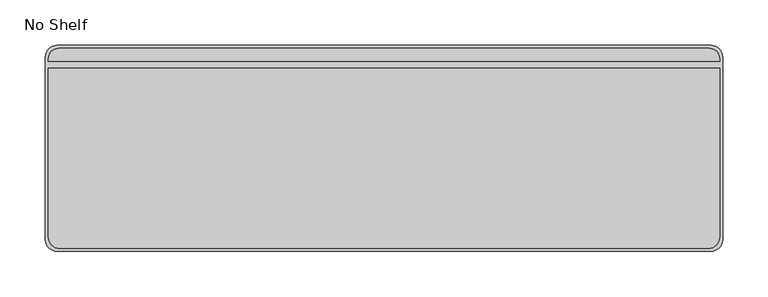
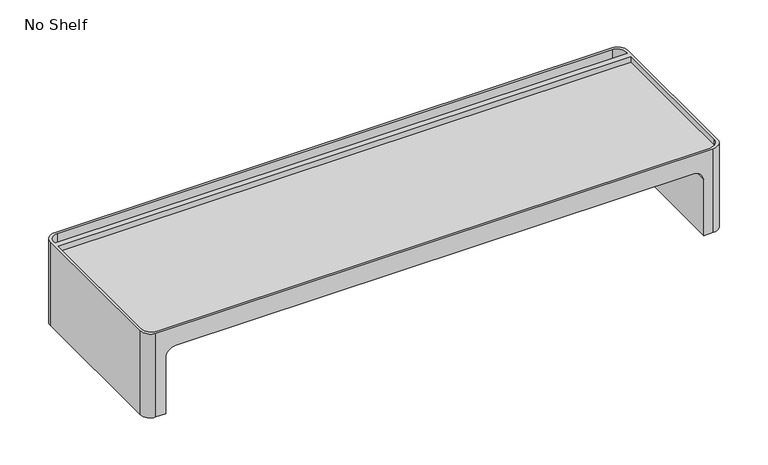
"""IFC4 building model written with IfcOpenShell, lengths in millimetres: furniture geometry, Steelcase - Worktool - SOTO II - Monitor Bridge : No Shelf."""

import ifcopenshell
import ifcopenshell.guid

model = None  # the IFC model being written
_history = None  # IfcOwnerHistory: only IFC2X3 demands one
_inside = {}  # id of a spatial element -> (the spatial element, [elements in it])
_under = {}  # id of a project, library or spatial element -> (it, [spatial elements below it])
_declared = {}  # id of a project -> (the project, [libraries it declares])
_typed = {}  # id of a type object -> (the type object, [elements of that type])
_made_of = {}  # id of a material, layer set ... -> (it, [elements and type objects made of it])


def new_model(schema):
    """Start an empty IFC model of exactly this schema.

    Asked for "IFC4X3", IfcOpenShell would pick the latest addendum, in which some entities
    have other attributes; the version numbers below select the first issue.
    IFC2X3 requires an IfcOwnerHistory on every rooted entity: one is made here for all.
    """
    global model, _history
    if schema == "IFC4X3":
        model = ifcopenshell.file(schema_version=(4, 3, 0, 0))
    else:
        model = ifcopenshell.file(schema=schema)
    _inside.clear()
    _under.clear()
    _declared.clear()
    _typed.clear()
    _made_of.clear()
    _history = None
    if model.schema == "IFC2X3":
        org = make("IfcOrganization", Name="unknown")
        user = make(
            "IfcPersonAndOrganization",
            ThePerson=make("IfcPerson", FamilyName="unknown"),
            TheOrganization=org,
        )
        app = make(
            "IfcApplication",
            ApplicationDeveloper=org,
            Version="unknown",
            ApplicationFullName="unknown",
            ApplicationIdentifier="unknown",
        )
        _history = make(
            "IfcOwnerHistory",
            OwningUser=user,
            OwningApplication=app,
            ChangeAction="ADDED",
            CreationDate=0,
        )
    return model


def make(cls, **values):
    """One entity of the class cls with the attributes given. An attribute that is None is left unset."""
    return model.create_entity(
        cls, **{name: value for name, value in values.items() if value is not None}
    )


def rooted(cls, **values):
    """An entity with a GlobalId (a new one), such as an element, a storey or a relation."""
    return make(cls, GlobalId=ifcopenshell.guid.new(), OwnerHistory=_history, **values)


def si_unit(unit_type, name, prefix=None):
    """IfcSIUnit, for example si_unit("LENGTHUNIT", "METRE", prefix="MILLI")."""
    return make("IfcSIUnit", UnitType=unit_type, Prefix=prefix, Name=name)


def assignment(units):
    """IfcUnitAssignment: the units of a project."""
    return None if units is None else make("IfcUnitAssignment", Units=units)


def point(xyz):
    """IfcCartesianPoint."""
    return None if xyz is None else make("IfcCartesianPoint", Coordinates=xyz)


def direction(xyz):
    """IfcDirection."""
    return None if xyz is None else make("IfcDirection", DirectionRatios=xyz)


def frame(location, z_axis=None, x_axis=None):
    """IfcAxis2Placement3D, a coordinate frame: its origin and axes. An axis left out is left unset."""
    return make(
        "IfcAxis2Placement3D",
        Location=point(location),
        Axis=direction(z_axis),
        RefDirection=direction(x_axis),
    )


def origin():
    """The frame at (0, 0, 0) with its axes left unset."""
    return frame((0.0, 0.0, 0.0))


def place(relative_to, where):
    """IfcLocalPlacement: puts the frame where relative to a parent placement (None: the world)."""
    return make(
        "IfcLocalPlacement", PlacementRelTo=relative_to, RelativePlacement=where
    )


def context(
    kind, dimensions, precision=None, world=None, true_north=None, identifier=None
):
    """IfcGeometricRepresentationContext, for example the 3D "Model" context."""
    return make(
        "IfcGeometricRepresentationContext",
        ContextIdentifier=identifier,
        ContextType=kind,
        CoordinateSpaceDimension=dimensions,
        Precision=precision,
        WorldCoordinateSystem=world,
        TrueNorth=true_north,
    )


def project(units=None, contexts=None):
    """IfcProject with its units and contexts."""
    return rooted(
        "IfcProject",
        Name="project",
        RepresentationContexts=contexts,
        UnitsInContext=assignment(units),
    )


def spatial(cls, under=None, at=None, **own):
    """A site, building, storey or space (cls), placed at a placement, below another one or the project."""
    s = rooted(cls, ObjectPlacement=at, **own)
    if under is not None:
        _under.setdefault(under.id(), (under, []))[1].append(s)
    return s


def polyline(points):
    """IfcPolyline through the points."""
    return make("IfcPolyline", Points=[point(p) for p in points])


def circle_curve(where, radius):
    """IfcCircle in the frame where."""
    return make("IfcCircle", Position=where, Radius=radius)


def shape(context_of_items, identifier, shape_type, items):
    """IfcShapeRepresentation: the items that make up one representation, for example the "Body"."""
    return make(
        "IfcShapeRepresentation",
        ContextOfItems=context_of_items,
        RepresentationIdentifier=identifier,
        RepresentationType=shape_type,
        Items=items,
    )


def source(mapping_origin, context_of_items, identifier, shape_type, items):
    """IfcRepresentationMap: a shape defined once, which mapped items show again and again."""
    return make(
        "IfcRepresentationMap",
        MappingOrigin=mapping_origin,
        MappedRepresentation=shape(context_of_items, identifier, shape_type, items),
    )


def transform(
    local_origin,
    x_axis=None,
    y_axis=None,
    z_axis=None,
    scale=None,
    scale2=None,
    scale3=None,
    uniform=True,
):
    """IfcCartesianTransformationOperator3D, or its non-uniform kind. x_axis, y_axis, z_axis: its Axis1, 2, 3."""
    if uniform:
        return make(
            "IfcCartesianTransformationOperator3D",
            Axis1=direction(x_axis),
            Axis2=direction(y_axis),
            LocalOrigin=point(local_origin),
            Scale=scale,
            Axis3=direction(z_axis),
        )
    return make(
        "IfcCartesianTransformationOperator3DnonUniform",
        Axis1=direction(x_axis),
        Axis2=direction(y_axis),
        LocalOrigin=point(local_origin),
        Scale=scale,
        Axis3=direction(z_axis),
        Scale2=scale2,
        Scale3=scale3,
    )


def mapped(mapping_source, mapping_target):
    """IfcMappedItem: shows the shape of a source again, moved by a transform."""
    return make(
        "IfcMappedItem", MappingSource=mapping_source, MappingTarget=mapping_target
    )


def made_of(thing, what):
    """Note that an element or type object is made of a material, layer set ...; save() writes the relation."""
    if what is not None:
        _made_of.setdefault(what.id(), (what, []))[1].append(thing)
    return thing


def element(
    cls,
    number,
    at=None,
    inside=None,
    cuts=None,
    type_object=None,
    material=None,
    context=None,
    identifier="Body",
    shape_type=None,
    held_by="IfcProductDefinitionShape",
    body=None,
    shapes=None,
    **own,
):
    """One element of the class cls, such as IfcWall. Its Tag is "e" and its number.

    at: its placement. inside: the storey or other place that contains it. cuts: it is an
    opening in that element (IfcRelVoidsElement). A single representation is given by context,
    identifier, shape_type and body (its items); several are given by shapes. held_by: the class
    of the entity that holds the representations. save() writes the other relations.
    """
    e = rooted(cls, Tag="e%d" % number, ObjectPlacement=at, **own)
    if body is not None:
        shapes = [shape(context, identifier, shape_type, body)]
    if shapes is not None:
        e.Representation = make(held_by, Representations=shapes)
    if inside is not None:
        _inside.setdefault(inside.id(), (inside, []))[1].append(e)
    if cuts is not None:
        rooted(
            "IfcRelVoidsElement", RelatingBuildingElement=cuts, RelatedOpeningElement=e
        )
    if type_object is not None:
        _typed.setdefault(type_object.id(), (type_object, []))[1].append(e)
    return made_of(e, material)


def aggregate(whole, parts):
    """IfcRelAggregates: a whole, such as a stair, and the parts it consists of."""
    return rooted("IfcRelAggregates", RelatingObject=whole, RelatedObjects=parts)


def save(model, path):
    """Write the relations noted so far, then the file.

    IfcRelAggregates (storeys below a building ...), IfcRelContainedInSpatialStructure (elements
    in a storey), IfcRelDefinesByType, IfcRelAssociatesMaterial and IfcRelDeclares: one each for
    every whole, place, type object, material and project.
    """
    for whole, parts in _under.values():
        aggregate(whole, parts)
    for where, things in _inside.values():
        rooted(
            "IfcRelContainedInSpatialStructure",
            RelatedElements=things,
            RelatingStructure=where,
        )
    for kind, things in _typed.values():
        rooted("IfcRelDefinesByType", RelatedObjects=things, RelatingType=kind)
    for what, things in _made_of.values():
        rooted("IfcRelAssociatesMaterial", RelatedObjects=things, RelatingMaterial=what)
    for by, libraries in _declared.values():
        rooted("IfcRelDeclares", RelatingContext=by, RelatedDefinitions=libraries)
    model.write(path)


def plane_surface(at):
    """IfcPlane: the flat surface through the origin of the frame at, square to its z axis."""
    return make("IfcPlane", Position=at)


def cylinder_surface(at, radius):
    """IfcCylindricalSurface: all points at the distance radius from the z axis of the frame at."""
    return make("IfcCylindricalSurface", Position=at, Radius=radius)


def revolved_surface(curve, axis_point, axis_direction):
    """IfcSurfaceOfRevolution: the curve turned about the line through axis_point along axis_direction."""
    return make(
        "IfcSurfaceOfRevolution",
        SweptCurve=make("IfcArbitraryOpenProfileDef", ProfileType="CURVE", Curve=curve),
        AxisPosition=make("IfcAxis1Placement", Location=point(axis_point), Axis=direction(axis_direction)),
    )


def advanced_brep(points, edges, surfaces, faces):
    """IfcAdvancedBrep: a solid bounded by faces that lie on surfaces and meet in shared edges.

    An edge is (start, end): straight between two places in points (the first is 0);
    or (start, end, curve); or (start, end, curve, False) where it runs against its curve.
    A face is (place in surfaces, loops), or (place, loops, False) where it looks against
    its surface's normal. A loop lists edges by number (the first is 1), with a minus sign
    where the edge is run from its end to its start. The first loop is the outer one.
    """
    corners = [point(p) for p in points]
    vertices = [make("IfcVertexPoint", VertexGeometry=c) for c in corners]
    made = []
    for start, end, *more in edges:
        made.append(
            make(
                "IfcEdgeCurve",
                EdgeStart=vertices[start],
                EdgeEnd=vertices[end],
                EdgeGeometry=more[0] if more else make("IfcPolyline", Points=[corners[start], corners[end]]),
                SameSense=more[1] if len(more) > 1 else True,
            )
        )
    hull = []
    for where, loops, *sense in faces:
        bounds = []
        for j, loop in enumerate(loops):
            ring = [make("IfcOrientedEdge", EdgeElement=made[abs(k) - 1], Orientation=k > 0) for k in loop]
            bounds.append(
                make(
                    "IfcFaceOuterBound" if j == 0 else "IfcFaceBound",
                    Bound=make("IfcEdgeLoop", EdgeList=ring),
                    Orientation=True,
                )
            )
        hull.append(make("IfcAdvancedFace", Bounds=bounds, FaceSurface=surfaces[where], SameSense=sense[0] if sense else True))
    return make("IfcAdvancedBrep", Outer=make("IfcClosedShell", CfsFaces=hull))


def no_shelf_664b266c(model_context):
    return source(origin(), model_context, "Body", "AdvancedBrep", [
        advanced_brep(
        [(-1.9313861, -14.6303873, 838.2031248), (-1.9313861, -215.9, 838.2031248), (10.7686139, -228.6, 838.2031248), (730.8586235, -228.6, 838.2031248), (743.5586235, -215.9, 838.2031248), (743.5586235, -14.6303873, 838.2031248), (730.8586235, -1.9303873, 838.2031248), (10.7686139, -1.9303873, 838.2031248), (13.9436139, -225.4249758, 838.2031248), (1.2436139, -212.7249758, 838.2031248), (1.2436139, -27.2122743, 838.2031248), (740.383672, -27.2122743, 838.2031248), (740.383672, -212.7249758, 838.2031248), (727.683672, -225.4249758, 838.2031248), (1.2436139, -19.6180613, 838.2031248), (1.2436139, -16.5353751, 838.2031248), (12.6736139, -5.1053751, 838.2031248), (728.953672, -5.1053751, 838.2031248), (740.383672, -16.5353751, 838.2031248), (740.383672, -19.6180613, 838.2031248), (-1.9313861, -14.6303873, 723.9), (10.7686139, -1.9303873, 723.9), (23.4466191, -1.9303873, 723.9), (23.4466191, -228.6, 723.9), (10.7686139, -228.6, 723.9), (-1.9313861, -215.9, 723.9), (730.8586235, -228.6, 723.9), (718.1872071, -228.6, 723.9), (718.1872071, -1.9303873, 723.9), (730.8586235, -1.9303873, 723.9), (743.5586235, -14.6303873, 723.9), (743.5586235, -215.9, 723.9), (718.1872071, -1.9303873, 800.0309877), (705.4872071, -1.9303873, 812.7309877), (36.1466191, -1.9303873, 812.7309877), (23.4466191, -1.9303873, 800.0309877), (23.4466191, -228.6, 800.0309877), (36.1466191, -228.6, 812.7309877), (705.4872071, -228.6, 812.7309877), (718.1872071, -228.6, 800.0309877), (727.683672, -225.4249758, 830.3983686), (740.383672, -212.7249758, 830.3983686), (740.383672, -27.2122743, 830.3983686), (1.2436139, -27.2122743, 830.3983686), (1.2436139, -212.7249758, 830.3983686), (13.9436139, -225.4249758, 830.3983686), (740.383672, -19.6180613, 817.0762894), (740.383672, -16.5353751, 817.0762894), (728.953672, -5.1053751, 817.0762894), (12.6736139, -5.1053751, 817.0762894), (1.2436139, -16.5353751, 817.0762894), (1.2436139, -19.6180613, 817.0762894)],
        [
            (0, 1),
            (1, 2, circle_curve(frame((10.7686139, -215.9, 838.2031248), z_axis=(0.0, 0.0, 1.0), x_axis=(1.0, 0.0, 0.0)), 12.7)),
            (2, 3),
            (3, 4, circle_curve(frame((730.8586235, -215.9, 838.2031248), z_axis=(0.0, 0.0, 1.0), x_axis=(1.0, 0.0, 0.0)), 12.7)),
            (4, 5),
            (5, 6, circle_curve(frame((730.8586235, -14.6303873, 838.2031248), z_axis=(0.0, 0.0, 1.0), x_axis=(1.0, 0.0, 0.0)), 12.7)),
            (6, 7),
            (7, 0, circle_curve(frame((10.7686139, -14.6303873, 838.2031248), z_axis=(0.0, 0.0, 1.0), x_axis=(1.0, 0.0, 0.0)), 12.7)),
            (8, 9, circle_curve(frame((13.9436139, -212.7249758, 838.2031248), z_axis=(0.0, 0.0, -1.0), x_axis=(1.0, 0.0, 0.0)), 12.7)),
            (9, 10),
            (10, 11),
            (11, 12),
            (12, 13, circle_curve(frame((727.683672, -212.7249758, 838.2031248), z_axis=(0.0, 0.0, -1.0), x_axis=(1.0, 0.0, 0.0)), 12.7)),
            (13, 8),
            (14, 15),
            (15, 16, circle_curve(frame((12.6736139, -16.5353751, 838.2031248), z_axis=(0.0, 0.0, -1.0), x_axis=(1.0, 0.0, 0.0)), 11.43)),
            (16, 17),
            (17, 18, circle_curve(frame((728.953672, -16.5353751, 838.2031248), z_axis=(0.0, 0.0, -1.0), x_axis=(1.0, 0.0, 0.0)), 11.43)),
            (18, 19),
            (19, 14),
            (20, 21, circle_curve(frame((10.7686139, -14.6303873, 723.9), z_axis=(0.0, 0.0, -1.0), x_axis=(1.0, 0.0, 0.0)), 12.7)),
            (21, 22),
            (22, 23),
            (23, 24),
            (24, 25, circle_curve(frame((10.7686139, -215.9, 723.9), z_axis=(0.0, 0.0, -1.0), x_axis=(1.0, 0.0, 0.0)), 12.7)),
            (25, 20),
            (26, 27),
            (27, 28),
            (28, 29),
            (29, 30, circle_curve(frame((730.8586235, -14.6303873, 723.9), z_axis=(0.0, 0.0, -1.0), x_axis=(1.0, 0.0, 0.0)), 12.7)),
            (30, 31),
            (31, 26, circle_curve(frame((730.8586235, -215.9, 723.9), z_axis=(0.0, 0.0, -1.0), x_axis=(1.0, 0.0, 0.0)), 12.7)),
            (7, 21),
            (20, 0),
            (6, 29),
            (28, 32),
            (32, 33, circle_curve(frame((705.4872071, -1.9303873, 800.0309877), z_axis=(0.0, -1.0, 0.0), x_axis=(1.0, 0.0, 0.0)), 12.7)),
            (33, 34),
            (34, 35, circle_curve(frame((36.1466191, -1.9303873, 800.0309877), z_axis=(0.0, -1.0, 0.0), x_axis=(1.0, 0.0, 0.0)), 12.7)),
            (35, 22),
            (5, 30),
            (4, 31),
            (3, 26),
            (2, 24),
            (23, 36),
            (36, 37, circle_curve(frame((36.1466191, -228.6, 800.0309877), z_axis=(0.0, 1.0, 0.0), x_axis=(1.0, 0.0, 0.0)), 12.7)),
            (37, 38),
            (38, 39, circle_curve(frame((705.4872071, -228.6, 800.0309877), z_axis=(0.0, 1.0, 0.0), x_axis=(1.0, 0.0, 0.0)), 12.7)),
            (39, 27),
            (1, 25),
            (35, 36),
            (39, 32),
            (38, 33),
            (37, 34),
            (40, 41, circle_curve(frame((727.683672, -212.7249758, 830.3983686), z_axis=(0.0, 0.0, 1.0), x_axis=(1.0, 0.0, 0.0)), 12.7)),
            (41, 42),
            (42, 43),
            (43, 44),
            (44, 45, circle_curve(frame((13.9436139, -212.7249758, 830.3983686), z_axis=(0.0, 0.0, 1.0), x_axis=(1.0, 0.0, 0.0)), 12.7)),
            (45, 40),
            (45, 8),
            (13, 40),
            (44, 9),
            (43, 10),
            (42, 11),
            (41, 12),
            (46, 47),
            (47, 48, circle_curve(frame((728.953672, -16.5353751, 817.0762894), z_axis=(0.0, 0.0, 1.0), x_axis=(1.0, 0.0, 0.0)), 11.43)),
            (48, 49),
            (49, 50, circle_curve(frame((12.6736139, -16.5353751, 817.0762894), z_axis=(0.0, 0.0, 1.0), x_axis=(1.0, 0.0, 0.0)), 11.43)),
            (50, 51),
            (51, 46),
            (51, 14),
            (19, 46),
            (50, 15),
            (49, 16),
            (48, 17),
            (47, 18),
        ],
        [
            plane_surface(frame((23.4686139, -14.6303873, 838.2031248), z_axis=(0.0, 0.0, 1.0), x_axis=(0.0, -1.0, 0.0))),
            plane_surface(frame((23.4686139, -14.6303873, 723.9), z_axis=(0.0, 0.0, -1.0), x_axis=(0.0, 1.0, 0.0))),
            cylinder_surface(frame((10.7686139, -14.6303873, 723.9), z_axis=(0.0, 0.0, 1.0), x_axis=(1.0, 0.0, 0.0)), 12.7),
            plane_surface(frame((10.7686139, -1.9303873, 838.2031248), z_axis=(0.0, 1.0, 0.0), x_axis=(0.0, 0.0, -1.0))),
            cylinder_surface(frame((730.8586235, -14.6303873, 723.9), z_axis=(0.0, 0.0, 1.0), x_axis=(1.0, 0.0, 0.0)), 12.7),
            plane_surface(frame((743.5586235, -14.6303873, 838.2031248), z_axis=(1.0, 0.0, 0.0), x_axis=(0.0, 0.0, -1.0))),
            cylinder_surface(frame((730.8586235, -215.9, 723.9), z_axis=(0.0, 0.0, 1.0), x_axis=(1.0, 0.0, 0.0)), 12.7),
            plane_surface(frame((730.8586235, -228.6, 838.2031248), z_axis=(0.0, -1.0, 0.0), x_axis=(0.0, 0.0, -1.0))),
            cylinder_surface(frame((10.7686139, -215.9, 723.9), z_axis=(0.0, 0.0, 1.0), x_axis=(1.0, 0.0, 0.0)), 12.7),
            plane_surface(frame((-1.9313861, -215.9, 838.2031248), z_axis=(-1.0, 0.0, 0.0), x_axis=(0.0, 0.0, -1.0))),
            plane_surface(frame((23.4466191, 190.5, 800.0309877), z_axis=(1.0, 0.0, 0.0), x_axis=(0.0, -1.0, 0.0))),
            plane_surface(frame((718.1872071, 190.5, 723.9), z_axis=(-1.0, 0.0, 0.0), x_axis=(0.0, -1.0, 0.0))),
            revolved_surface(polyline([(718.1872071, -1.9303873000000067, 800.0309877), (718.1872071, -228.6, 800.0309877)]), (705.4872071, -447.3250306, 800.0309877), (0.0, 1.0, 0.0)),
            plane_surface(frame((705.4872071, 190.5, 812.7309877), z_axis=(0.0, 0.0, -1.0), x_axis=(0.0, -1.0, 0.0))),
            revolved_surface(polyline([(48.8466191, -1.9303873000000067, 800.0309877), (48.8466191, -228.6, 800.0309877)]), (36.1466191, -447.3250306, 800.0309877), (0.0, 1.0, 0.0)),
            plane_surface(frame((12.7604916, -225.4249758, 830.3983686), z_axis=(0.0, 0.0, 1.0), x_axis=(1.0, 0.0, 0.0))),
            plane_surface(frame((727.683672, -225.4249758, 874.4453433), z_axis=(0.0, 1.0, 0.0), x_axis=(0.0, 0.0, -1.0))),
            revolved_surface(polyline([(26.6436139, -212.7249758, 838.2031248), (26.6436139, -212.7249758, 830.3983686)]), (13.9436139, -212.7249758, 830.3983686), (0.0, 0.0, 1.0)),
            plane_surface(frame((1.2436139, -212.7249758, 874.4453433), z_axis=(1.0, 0.0, 0.0), x_axis=(0.0, 0.0, -1.0))),
            plane_surface(frame((1.2436139, -27.2122743, 874.4453433), z_axis=(0.0, -1.0, 0.0), x_axis=(0.0, 0.0, -1.0))),
            plane_surface(frame((740.383672, -27.2122743, 874.4453433), z_axis=(-1.0, 0.0, 0.0), x_axis=(0.0, 0.0, -1.0))),
            revolved_surface(polyline([(740.383672, -212.7249758, 838.2031248), (740.383672, -212.7249758, 830.3983686)]), (727.683672, -212.7249758, 830.3983686), (0.0, 0.0, 1.0)),
            plane_surface(frame((1.2436139, -19.6180613, 817.0762894), z_axis=(0.0, 0.0, 1.0), x_axis=(1.0, 0.0, 0.0))),
            plane_surface(frame((740.383672, -19.6180613, 875.2667538), z_axis=(0.0, 1.0, 0.0), x_axis=(0.0, 0.0, -1.0))),
            plane_surface(frame((1.2436139, -19.6180613, 875.2667538), z_axis=(1.0, 0.0, 0.0), x_axis=(0.0, 0.0, -1.0))),
            revolved_surface(polyline([(24.1036139, -16.5353751, 838.2031248), (24.1036139, -16.5353751, 817.0762894)]), (12.6736139, -16.5353751, 817.0762894), (0.0, 0.0, 1.0)),
            plane_surface(frame((12.6736139, -5.1053751, 875.2667538), z_axis=(0.0, -1.0, 0.0), x_axis=(0.0, 0.0, -1.0))),
            revolved_surface(polyline([(740.3836719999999, -16.5353751, 838.2031248), (740.3836719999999, -16.5353751, 817.0762894)]), (728.953672, -16.5353751, 817.0762894), (0.0, 0.0, 1.0)),
            plane_surface(frame((740.383672, -16.5353751, 875.2667538), z_axis=(-1.0, 0.0, 0.0), x_axis=(0.0, 0.0, -1.0))),
        ],
        [
            (0, [[1, 2, 3, 4, 5, 6, 7, 8], [9, 10, 11, 12, 13, 14], [15, 16, 17, 18, 19, 20]]),
            (1, [[21, 22, 23, 24, 25, 26]]),
            (1, [[27, 28, 29, 30, 31, 32]]),
            (2, [[33, -21, 34, -8]]),
            (3, [[35, -29, 36, 37, 38, 39, 40, -22, -33, -7]]),
            (4, [[41, -30, -35, -6]]),
            (5, [[42, -31, -41, -5]]),
            (6, [[43, -32, -42, -4]]),
            (7, [[44, -24, 45, 46, 47, 48, 49, -27, -43, -3]]),
            (8, [[50, -25, -44, -2]]),
            (9, [[-34, -26, -50, -1]]),
            (10, [[-45, -23, -40, 51]]),
            (11, [[-36, -28, -49, 52]]),
            (12, [[-48, 53, -37, -52]]),
            (13, [[-47, 54, -38, -53]]),
            (14, [[-39, -54, -46, -51]]),
            (15, [[55, 56, 57, 58, 59, 60]]),
            (16, [[61, -14, 62, -60]]),
            (17, [[63, -9, -61, -59]]),
            (18, [[64, -10, -63, -58]]),
            (19, [[65, -11, -64, -57]]),
            (20, [[66, -12, -65, -56]]),
            (21, [[-62, -13, -66, -55]]),
            (22, [[67, 68, 69, 70, 71, 72]]),
            (23, [[73, -20, 74, -72]]),
            (24, [[75, -15, -73, -71]]),
            (25, [[76, -16, -75, -70]]),
            (26, [[77, -17, -76, -69]]),
            (27, [[78, -18, -77, -68]]),
            (28, [[-74, -19, -78, -67]]),
        ],
    ),
    ])


if __name__ == "__main__":
    model = new_model("IFC4")
    model_context = context("Model", 3, world=origin())
    ifc_project = project(units=[si_unit("LENGTHUNIT", "METRE", prefix="MILLI")], contexts=[model_context])
    site = spatial("IfcSite", under=ifc_project)
    building = spatial("IfcBuilding", under=site)
    placement = place(None, origin())
    no_shelf_shape = no_shelf_664b266c(model_context)
    element("IfcFurniture", 1, ObjectType="Steelcase - Worktool - SOTO II - Monitor Bridge : No Shelf", at=placement, inside=building, context=model_context, shape_type="MappedRepresentation", body=[
        mapped(no_shelf_shape, transform((0.0, 0.0, 0.0), x_axis=(1.0, 0.0, 0.0), y_axis=(0.0, 1.0, 0.0), z_axis=(0.0, 0.0, 1.0))),
    ])
    save(model, "model.ifc")
